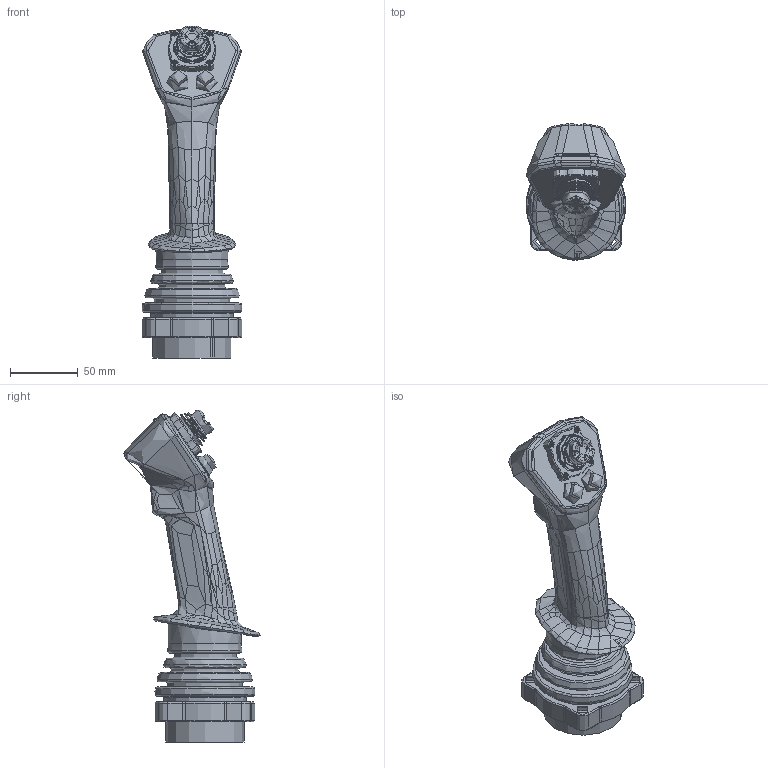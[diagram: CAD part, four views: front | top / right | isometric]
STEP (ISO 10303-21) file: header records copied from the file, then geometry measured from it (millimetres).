
FILE_DESCRIPTION(/* description */ ('','CAx-IF Rec.Pracs.---Representation and Presentation of Product Manufacturing Information (PMI)---4.0---2014-10-13'),/* implementation_level */ '2;1');
FILE_NAME(/* name */ 'S:\Entwicklung\01_CAD-Daten\01_AIDATA-GT\1_1_Joysticks\SK212\Zusammenstellungen\Steps\212-021.stp',/* time_stamp */ '2022-01-03T11:30:15+01:00',/* author */ ('mk'),/* organization */ (''),/* preprocessor_version */ 'ST-DEVELOPER v18.1',/* originating_system */ 'Autodesk Inventor 2021',/* authorisation */ '');
FILE_SCHEMA (('AP242_MANAGED_MODEL_BASED_3D_ENGINEERING_MIM_LF { 1 0 10303 442 1 1 4 }'));
Products named in the file (3): Ensemble1; 212-021_Shrinkwrap_1; 212-202
Assembly tree (2 placements, depth 2):
  Ensemble1
    212-021_Shrinkwrap_1
    212-202
Bounding box: 73.71 x 100.33 x 244.88 mm (x, y, z)
Volume: 204514.1 mm3; surface area: 144438.3 mm2
Topology: 5 solids, 5 shells, 3486 faces, 8587 edges, 5109 vertices
Faces by surface type: bspline 1478, cylinder 888, plane 539, torus 363, sphere 190, cone 28
Full cylindrical faces by diameter (mm): 0.2 x1, 1.38 x8, 1.5 x3, 2 x2, 2.46 x3, 2.55 x2, 2.7 x9, 3 x2, 3.15 x5, 3.2 x2, 4.2 x4, 5 x5, 5.5 x16, 6 x1, 6.5 x1, 6.8 x4, 8 x4, 9.75 x1, 10 x4, 11.2 x1, 11.5 x4, 11.7 x2, 12.8 x1, 14.5 x1, 15.5 x3, 16.5 x1, 17 x1, 17.2 x2, 20 x1, 20.52 x1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
Entity records: 346521 total; most frequent: CARTESIAN_POINT 271003, ORIENTED_EDGE 16972, DIRECTION 11848, EDGE_CURVE 8486, VERTEX_POINT 5107, AXIS2_PLACEMENT_3D 4984, B_SPLINE_CURVE_WITH_KNOTS 3713, EDGE_LOOP 3625
